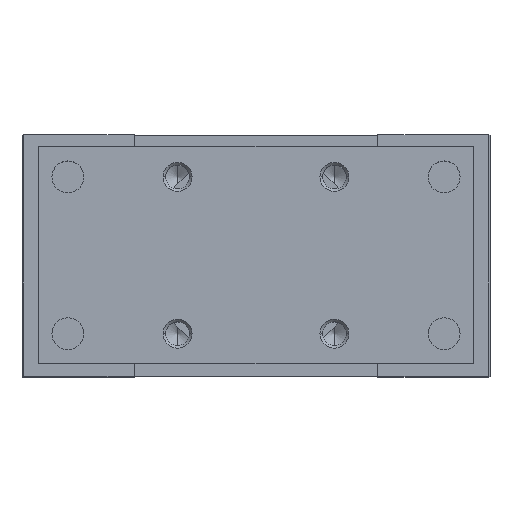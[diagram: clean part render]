
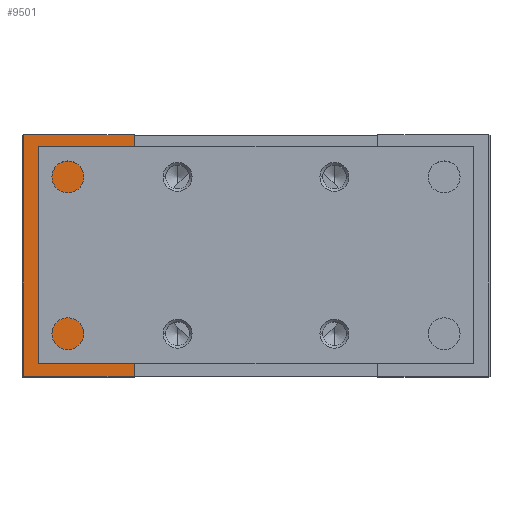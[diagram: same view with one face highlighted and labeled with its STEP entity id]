
A CAD part, top view. The second image highlights one B-rep face of the part: STEP entity #9501.
In plain terms, the highlighted planar face has unit normal (0, 0, 1).
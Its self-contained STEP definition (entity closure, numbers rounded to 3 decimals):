
#33 = CARTESIAN_POINT ( 'NONE',  ( -31., 0., 49. ) ) ;
#399 = CARTESIAN_POINT ( 'NONE',  ( -37., 0., 49. ) ) ;
#753 = LINE ( 'NONE', #852, #2407 ) ;
#852 = CARTESIAN_POINT ( 'NONE',  ( -25.25, 25., 49. ) ) ;
#937 = CARTESIAN_POINT ( 'NONE',  ( -25.25, 25., 49. ) ) ;
#988 = CARTESIAN_POINT ( 'NONE',  ( -48.5, 25., 49. ) ) ;
#1043 = DIRECTION ( 'NONE',  ( 0., 0., 1. ) ) ;
#1169 = PLANE ( 'NONE',  #7410 ) ;
#1223 = FACE_BOUND ( 'NONE', #10776, .T. ) ;
#1716 = ORIENTED_EDGE ( 'NONE', *, *, #1855, .F. ) ;
#1733 = DIRECTION ( 'NONE',  ( 1., 0., 0. ) ) ;
#1855 = EDGE_CURVE ( 'NONE', #10729, #5311, #7085, .T. ) ;
#1949 = DIRECTION ( 'NONE',  ( 1., 0., 0. ) ) ;
#2037 = ORIENTED_EDGE ( 'NONE', *, *, #4309, .F. ) ;
#2168 = CARTESIAN_POINT ( 'NONE',  ( -25.25, -25., 49. ) ) ;
#2252 = EDGE_CURVE ( 'NONE', #6992, #4896, #7620, .T. ) ;
#2362 = CIRCLE ( 'NONE', #3271, 6. ) ;
#2407 = VECTOR ( 'NONE', #9432, 1000. ) ;
#2636 = CARTESIAN_POINT ( 'NONE',  ( -48.5, -25., 49. ) ) ;
#3271 = AXIS2_PLACEMENT_3D ( 'NONE', #4492, #1043, #7929 ) ;
#3292 = EDGE_CURVE ( 'NONE', #5311, #6107, #753, .T. ) ;
#4309 = EDGE_CURVE ( 'NONE', #4896, #6992, #2362, .T. ) ;
#4393 = LINE ( 'NONE', #2636, #4696 ) ;
#4476 = EDGE_LOOP ( 'NONE', ( #1716, #9135, #9038, #9785 ) ) ;
#4492 = CARTESIAN_POINT ( 'NONE',  ( -37., 0., 49. ) ) ;
#4500 = DIRECTION ( 'NONE',  ( 0., 0., -1. ) ) ;
#4565 = DIRECTION ( 'NONE',  ( 0., -1., 0. ) ) ;
#4696 = VECTOR ( 'NONE', #1733, 1000. ) ;
#4831 = CARTESIAN_POINT ( 'NONE',  ( -48.2, -25., 49. ) ) ;
#4855 = ORIENTED_EDGE ( 'NONE', *, *, #2252, .F. ) ;
#4896 = VERTEX_POINT ( 'NONE', #6605 ) ;
#4949 = AXIS2_PLACEMENT_3D ( 'NONE', #399, #10886, #7285 ) ;
#5311 = VERTEX_POINT ( 'NONE', #937 ) ;
#6018 = LINE ( 'NONE', #7716, #9938 ) ;
#6107 = VERTEX_POINT ( 'NONE', #2168 ) ;
#6230 = VECTOR ( 'NONE', #1949, 1000. ) ;
#6605 = CARTESIAN_POINT ( 'NONE',  ( -43., 0., 49. ) ) ;
#6992 = VERTEX_POINT ( 'NONE', #33 ) ;
#7085 = LINE ( 'NONE', #988, #6230 ) ;
#7285 = DIRECTION ( 'NONE',  ( 1., 0., 0. ) ) ;
#7410 = AXIS2_PLACEMENT_3D ( 'NONE', #8785, #4500, #4565 ) ;
#7620 = CIRCLE ( 'NONE', #4949, 6. ) ;
#7716 = CARTESIAN_POINT ( 'NONE',  ( -48.2, 50., 49. ) ) ;
#7929 = DIRECTION ( 'NONE',  ( 1., 0., 0. ) ) ;
#8144 = EDGE_CURVE ( 'NONE', #11014, #6107, #4393, .T. ) ;
#8277 = CARTESIAN_POINT ( 'NONE',  ( -48.2, 25., 49. ) ) ;
#8516 = DIRECTION ( 'NONE',  ( 0., -1., 0. ) ) ;
#8785 = CARTESIAN_POINT ( 'NONE',  ( -48.5, 25., 49. ) ) ;
#9038 = ORIENTED_EDGE ( 'NONE', *, *, #8144, .T. ) ;
#9135 = ORIENTED_EDGE ( 'NONE', *, *, #10404, .T. ) ;
#9432 = DIRECTION ( 'NONE',  ( 0., -1., 0. ) ) ;
#9501 = ADVANCED_FACE ( 'NONE', ( #9801, #1223 ), #1169, .F. ) ;
#9785 = ORIENTED_EDGE ( 'NONE', *, *, #3292, .F. ) ;
#9801 = FACE_OUTER_BOUND ( 'NONE', #4476, .T. ) ;
#9938 = VECTOR ( 'NONE', #8516, 1000. ) ;
#10404 = EDGE_CURVE ( 'NONE', #10729, #11014, #6018, .T. ) ;
#10729 = VERTEX_POINT ( 'NONE', #8277 ) ;
#10776 = EDGE_LOOP ( 'NONE', ( #2037, #4855 ) ) ;
#10886 = DIRECTION ( 'NONE',  ( 0., 0., 1. ) ) ;
#11014 = VERTEX_POINT ( 'NONE', #4831 ) ;
